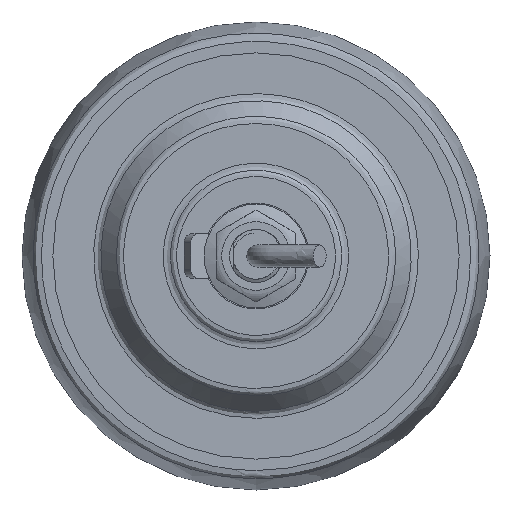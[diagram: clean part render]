
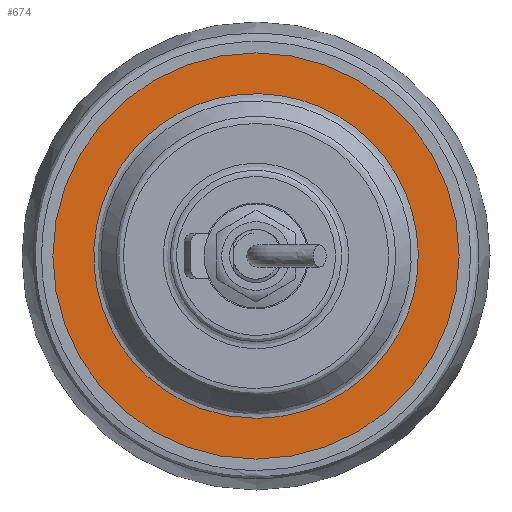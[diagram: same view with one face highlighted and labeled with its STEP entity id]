
A CAD part, left-side view. The second image highlights one B-rep face of the part: STEP entity #674.
In plain terms, the highlighted planar face has unit normal (-1, 0, 0).
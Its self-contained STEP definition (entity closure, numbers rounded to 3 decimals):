
#94=PLANE('',#6856);
#168=FACE_BOUND('',#1540,.T.);
#169=FACE_BOUND('',#1541,.T.);
#674=ADVANCED_FACE('',(#168,#169),#94,.T.);
#1540=EDGE_LOOP('',(#3434));
#1541=EDGE_LOOP('',(#3435));
#1688=CIRCLE('',#6854,46.);
#2281=B_SPLINE_CURVE_WITH_KNOTS('',3,(#91327,#91328,#91329,#91330,#91331,
#91332,#91333,#91334,#91335,#91336,#91337,#91338,#91339,#91340,#91341,#91342,
#91343,#91344,#91345,#91346,#91347,#91348,#91349,#91350,#91351,#91352,#91353,
#91354,#91355,#91356,#91357,#91358,#91359,#91360,#91361,#91362,#91363,#91364,
#91365,#91366,#91367,#91368,#91369,#91370,#91371,#91372,#91373,#91374,#91375),
 .UNSPECIFIED.,.T.,.F.,(1,3,3,3,3,3,3,3,3,3,3,3,3,3,3,3,3,3,1),(-0.063,
0.,0.063,0.125,0.188,0.25,0.313,0.375,0.438,0.5,0.563,0.625,0.688,
0.75,0.813,0.875,0.938,1.,1.063),.UNSPECIFIED.);
#3434=ORIENTED_EDGE('',*,*,#5852,.T.);
#3435=ORIENTED_EDGE('',*,*,#5851,.F.);
#4908=VERTEX_POINT('',#91325);
#4909=VERTEX_POINT('',#91376);
#5851=EDGE_CURVE('',#4908,#4908,#1688,.T.);
#5852=EDGE_CURVE('',#4909,#4909,#2281,.T.);
#6854=AXIS2_PLACEMENT_3D('',#91324,#7551,#7552);
#6856=AXIS2_PLACEMENT_3D('',#91377,#7555,#7556);
#7551=DIRECTION('',(1.,0.,0.));
#7552=DIRECTION('',(0.,0.,-1.));
#7555=DIRECTION('',(-1.,0.,0.));
#7556=DIRECTION('',(0.,0.,1.));
#91324=CARTESIAN_POINT('',(-0.6,0.,0.));
#91325=CARTESIAN_POINT('',(-0.6,0.,-46.));
#91327=CARTESIAN_POINT('',(-0.6,0.,-36.756));
#91328=CARTESIAN_POINT('',(-0.6,4.811,-36.756));
#91329=CARTESIAN_POINT('',(-0.6,9.622,-35.799));
#91330=CARTESIAN_POINT('',(-0.6,14.066,-33.958));
#91331=CARTESIAN_POINT('',(-0.6,18.51,-32.118));
#91332=CARTESIAN_POINT('',(-0.6,22.589,-29.392));
#91333=CARTESIAN_POINT('',(-0.6,25.991,-25.991));
#91334=CARTESIAN_POINT('',(-0.6,29.392,-22.59));
#91335=CARTESIAN_POINT('',(-0.6,32.118,-18.51));
#91336=CARTESIAN_POINT('',(-0.6,33.958,-14.066));
#91337=CARTESIAN_POINT('',(-0.6,35.799,-9.622));
#91338=CARTESIAN_POINT('',(-0.6,36.756,-4.81));
#91339=CARTESIAN_POINT('',(-0.6,36.756,0.));
#91340=CARTESIAN_POINT('',(-0.6,36.756,4.81));
#91341=CARTESIAN_POINT('',(-0.6,35.799,9.622));
#91342=CARTESIAN_POINT('',(-0.6,33.958,14.066));
#91343=CARTESIAN_POINT('',(-0.6,32.118,18.51));
#91344=CARTESIAN_POINT('',(-0.6,29.392,22.589));
#91345=CARTESIAN_POINT('',(-0.6,25.991,25.991));
#91346=CARTESIAN_POINT('',(-0.6,22.59,29.392));
#91347=CARTESIAN_POINT('',(-0.6,18.51,32.118));
#91348=CARTESIAN_POINT('',(-0.6,14.066,33.958));
#91349=CARTESIAN_POINT('',(-0.6,9.622,35.799));
#91350=CARTESIAN_POINT('',(-0.6,4.81,36.756));
#91351=CARTESIAN_POINT('',(-0.6,0.,36.756));
#91352=CARTESIAN_POINT('',(-0.6,-4.81,36.756));
#91353=CARTESIAN_POINT('',(-0.6,-9.622,35.799));
#91354=CARTESIAN_POINT('',(-0.6,-14.066,33.958));
#91355=CARTESIAN_POINT('',(-0.6,-18.51,32.118));
#91356=CARTESIAN_POINT('',(-0.6,-22.589,29.392));
#91357=CARTESIAN_POINT('',(-0.6,-25.991,25.991));
#91358=CARTESIAN_POINT('',(-0.6,-29.392,22.59));
#91359=CARTESIAN_POINT('',(-0.6,-32.118,18.51));
#91360=CARTESIAN_POINT('',(-0.6,-33.958,14.066));
#91361=CARTESIAN_POINT('',(-0.6,-35.799,9.622));
#91362=CARTESIAN_POINT('',(-0.6,-36.756,4.81));
#91363=CARTESIAN_POINT('',(-0.6,-36.756,0.));
#91364=CARTESIAN_POINT('',(-0.6,-36.756,-4.81));
#91365=CARTESIAN_POINT('',(-0.6,-35.799,-9.622));
#91366=CARTESIAN_POINT('',(-0.6,-33.958,-14.066));
#91367=CARTESIAN_POINT('',(-0.6,-32.118,-18.51));
#91368=CARTESIAN_POINT('',(-0.6,-29.392,-22.589));
#91369=CARTESIAN_POINT('',(-0.6,-25.991,-25.991));
#91370=CARTESIAN_POINT('',(-0.6,-22.59,-29.392));
#91371=CARTESIAN_POINT('',(-0.6,-18.51,-32.118));
#91372=CARTESIAN_POINT('',(-0.6,-14.066,-33.958));
#91373=CARTESIAN_POINT('',(-0.6,-9.622,-35.799));
#91374=CARTESIAN_POINT('',(-0.6,-4.812,-36.756));
#91375=CARTESIAN_POINT('',(-0.6,0.,-36.756));
#91376=CARTESIAN_POINT('',(-0.6,0.,-36.756));
#91377=CARTESIAN_POINT('',(-0.6,0.,46.));
